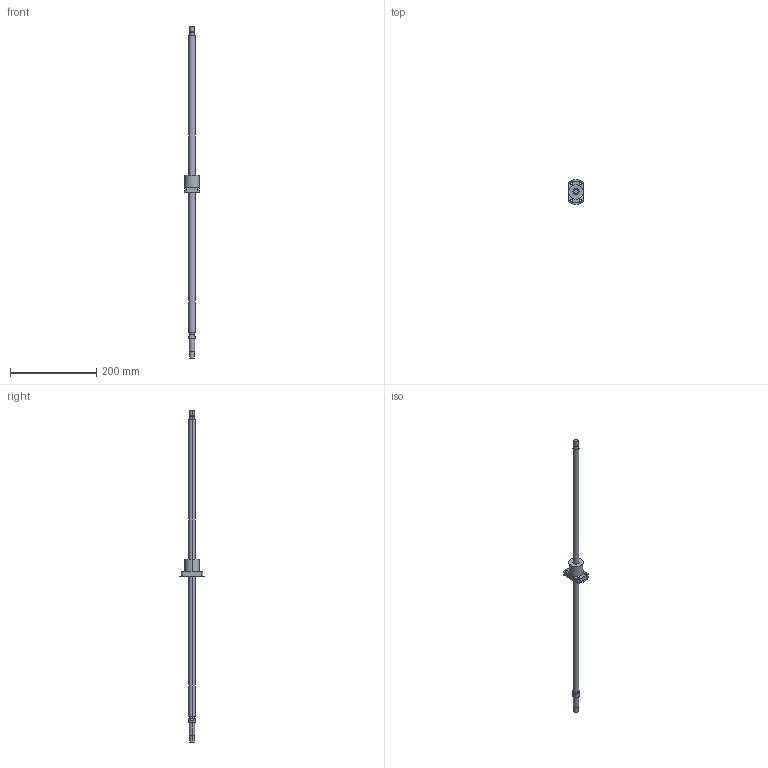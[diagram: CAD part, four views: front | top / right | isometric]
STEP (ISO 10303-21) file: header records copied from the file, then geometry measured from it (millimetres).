
FILE_DESCRIPTION((''),'2;1');
FILE_NAME('R14-5B1-FSW-689-771','2008-03-28T',('mahdi'),(''),'PRO/ENGINEER BY PARAMETRIC TECHNOLOGY CORPORATION, 2005070','PRO/ENGINEER BY PARAMETRIC TECHNOLOGY CORPORATION, 2005070','');
FILE_SCHEMA(('CONFIG_CONTROL_DESIGN'));
Length unit declared in the file: millimetre
Products named in the file (1): R14-5B1-FSW-689-771
Bounding box: 34 x 57 x 771 mm (x, y, z)
Volume: 151235.5 mm3; surface area: 41019.3 mm2
Topology: 1 solids, 1 shells, 65 faces, 146 edges, 96 vertices
Faces by surface type: cylinder 38, plane 27
Entity records: 1906 total; most frequent: DIRECTION 360, CARTESIAN_POINT 307, ORIENTED_EDGE 292, AXIS2_PLACEMENT_3D 149, EDGE_CURVE 146, VERTEX_POINT 96, EDGE_LOOP 86, CIRCLE 84
